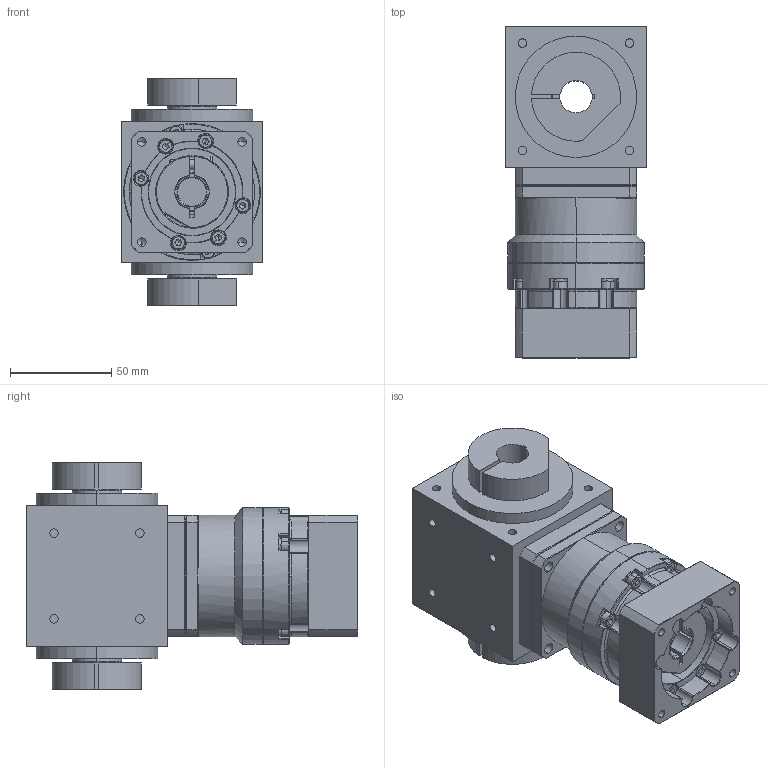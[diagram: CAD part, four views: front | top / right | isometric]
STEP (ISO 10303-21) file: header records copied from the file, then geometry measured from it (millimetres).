
FILE_DESCRIPTION (( 'STEP AP203' ), '1' );
FILE_NAME ('AAW070AS-L1-2C-K 14-50-70-M5.STEP', '2024-12-23T08:23:50', ( '' ), ( '' ), 'SwSTEP 2.0', 'SolidWorks 2021', '' );
FILE_SCHEMA (( 'CONFIG_CONTROL_DESIGN' ));
Length unit declared in the file: millimetre
Products named in the file (3): VRB-060-L1-S2-P1 14-50-70-M5; AAW070AS-L1-2C-K 14-50-70-M5
Assembly tree (2 placements, depth 2):
  AAW070AS-L1-2C-K 14-50-70-M5
    AAW070AS-L1-2C-K 14-50-70-M5
    VRB-060-L1-S2-P1 14-50-70-M5
Bounding box: 70 x 164 x 112 mm (x, y, z)
Volume: 639576.8 mm3; surface area: 111579 mm2
Topology: 32 solids, 32 shells, 1057 faces, 2584 edges, 1603 vertices
Faces by surface type: plane 424, cylinder 371, cone 196, torus 50, bspline 16
Entity records: 31899 total; most frequent: CARTESIAN_POINT 6588, DIRECTION 5531, ORIENTED_EDGE 5056, EDGE_CURVE 2528, AXIS2_PLACEMENT_3D 2195, VERTEX_POINT 1603, EDGE_LOOP 1169, CIRCLE 1149
